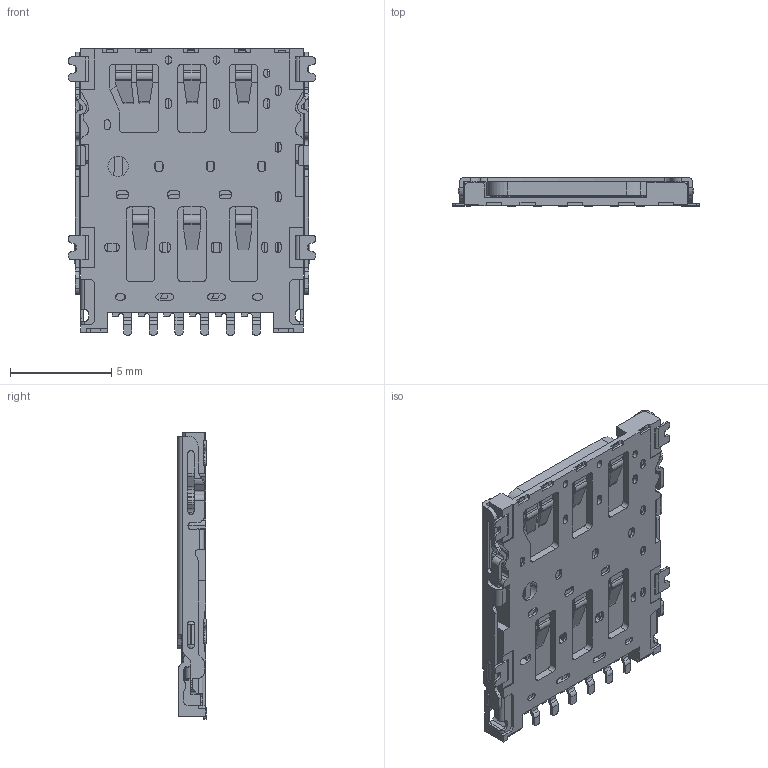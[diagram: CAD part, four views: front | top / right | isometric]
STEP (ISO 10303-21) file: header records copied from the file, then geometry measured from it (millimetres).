
FILE_DESCRIPTION((''),'2;1');
FILE_NAME('ASM0001_ASM','2023-03-09T09:54:18',('Administrator'),(''),'CREO PARAMETRIC BY PTC INC, 2018050','CREO PARAMETRIC BY PTC INC, 2018050','');
FILE_SCHEMA(('AUTOMOTIVE_DESIGN { 1 0 10303 214 1 1 1 1 }'));
Products named in the file (3): PRT0001_1_1; NANO-SIM; ASM0001_ASM
Assembly tree (2 placements, depth 2):
  ASM0001_ASM
    PRT0001_1_1
    NANO-SIM
Bounding box: 12.2 x 1.4 x 14.13 mm (x, y, z)
Volume: 157.9 mm3; surface area: 868.5 mm2
Topology: 2 solids, 2 shells, 1558 faces, 5309 edges, 3841 vertices
Faces by surface type: plane 979, cylinder 508, bspline 30, torus 22, cone 19
Entity records: 71067 total; most frequent: CARTESIAN_POINT 11399, DIRECTION 9450, ORIENTED_EDGE 9176, EDGE_CURVE 4588, VECTOR 3926, LINE 3926, VERTEX_POINT 3057, AXIS2_PLACEMENT_3D 2762
